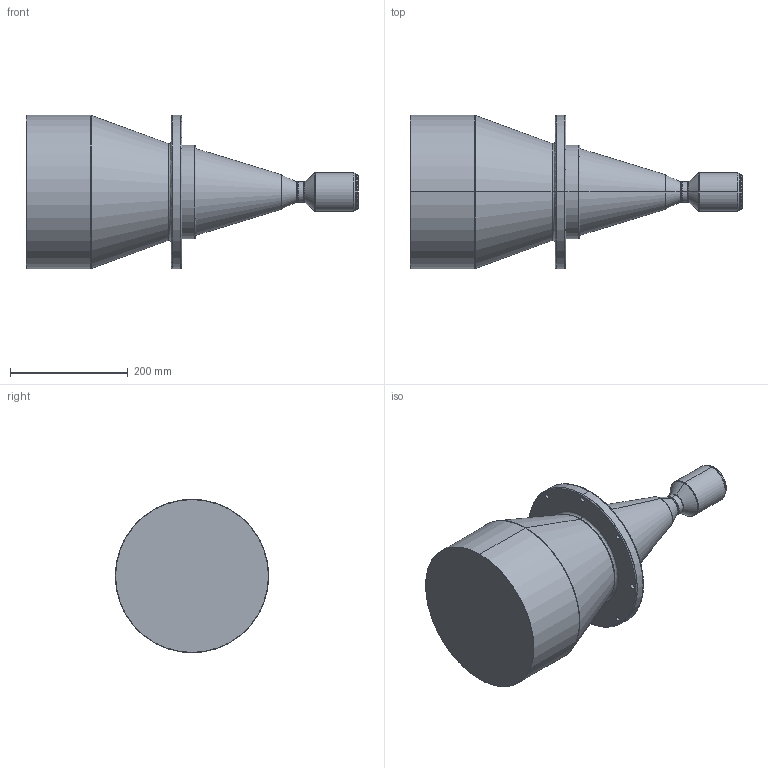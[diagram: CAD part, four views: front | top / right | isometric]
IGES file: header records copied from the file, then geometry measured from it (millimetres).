
Start section: SolidWorks IGES file using analytic representation for surfaces
Global section: file name: C:\Users\Administrator\Desktop\DTCM430H-216-M58-AL.IGS; native system: SolidWorks 2017; preprocessor: SolidWorks 2017; author: Administrator; date: 210315.140442; units: millimetre
Bounding box: 563.3 x 260 x 260 mm (x, y, z)
Surface area: 410231.9 mm2 (no closed solid volume)
Topology: 0 solids, 0 shells, 78 faces, 1936 edges, 1936 vertices
Faces by surface type: revolution 52, bspline 26
